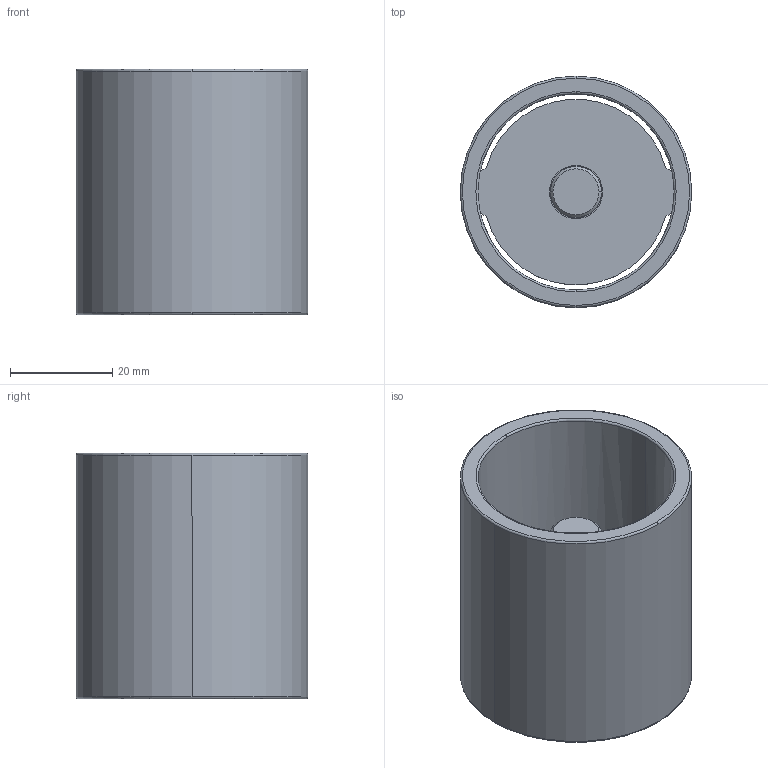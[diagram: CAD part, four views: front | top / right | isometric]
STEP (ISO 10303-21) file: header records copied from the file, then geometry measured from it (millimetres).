
FILE_DESCRIPTION((''),'2;1');
FILE_NAME('C11_038_048.stp','2009-01-12T09:42:30',(''),(''),'Mechanical Desktop 2009','Mechanical Desktop 2009',', , ');
FILE_SCHEMA(('CONFIG_CONTROL_DESIGN'));
Length unit declared in the file: millimetre
Products named in the file (2): Product; blmdl1
Assembly tree (1 placements, depth 2):
  Product
    blmdl1
Bounding box: 45.25 x 45.25 x 48 mm (x, y, z)
Volume: 26487.4 mm3; surface area: 17261.8 mm2
Topology: 3 solids, 3 shells, 44 faces, 110 edges, 74 vertices
Faces by surface type: cylinder 16, plane 16, torus 10, cone 2
Entity records: 1507 total; most frequent: CARTESIAN_POINT 274, DIRECTION 266, ORIENTED_EDGE 220, AXIS2_PLACEMENT_3D 114, EDGE_CURVE 110, VERTEX_POINT 74, CIRCLE 68, EDGE_LOOP 50
